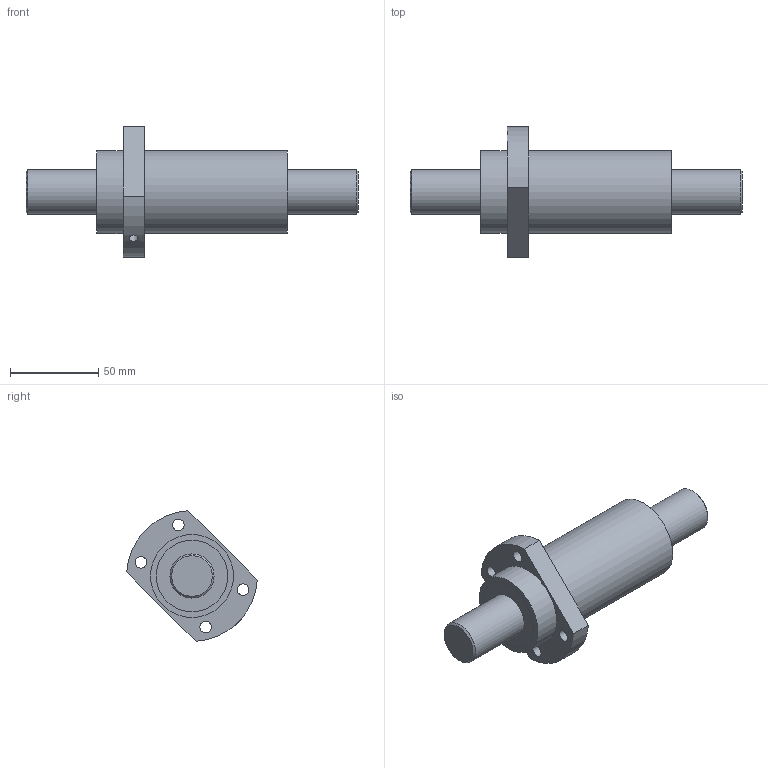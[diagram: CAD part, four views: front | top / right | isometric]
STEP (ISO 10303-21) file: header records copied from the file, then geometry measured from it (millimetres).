
FILE_DESCRIPTION (( 'STEP AP203' ), '1' );
FILE_NAME ('SFY02550-3.6.STEP', '2023-08-17T00:39:18', ( '' ), ( '' ), 'SwSTEP 2.0', 'SolidWorks 2022', '' );
FILE_SCHEMA (( 'CONFIG_CONTROL_DESIGN' ));
Length unit declared in the file: millimetre
Products named in the file (1): SFY02550-3.6
Bounding box: 188 x 73.86 x 73.86 mm (x, y, z)
Volume: 243937.8 mm3; surface area: 54529.3 mm2
Topology: 4 solids, 4 shells, 52 faces, 92 edges, 62 vertices
Faces by surface type: cylinder 27, plane 23, cone 2
Full cylindrical faces by diameter (mm): 3 x1, 5 x1, 6.6 x4, 25 x4, 38 x4, 40.5 x4, 42 x4, 47 x2
Entity records: 1618 total; most frequent: CARTESIAN_POINT 578, DIRECTION 218, ORIENTED_EDGE 124, EDGE_LOOP 106, AXIS2_PLACEMENT_3D 105, FACE_OUTER_BOUND 76, EDGE_CURVE 62, VERTEX_POINT 58
